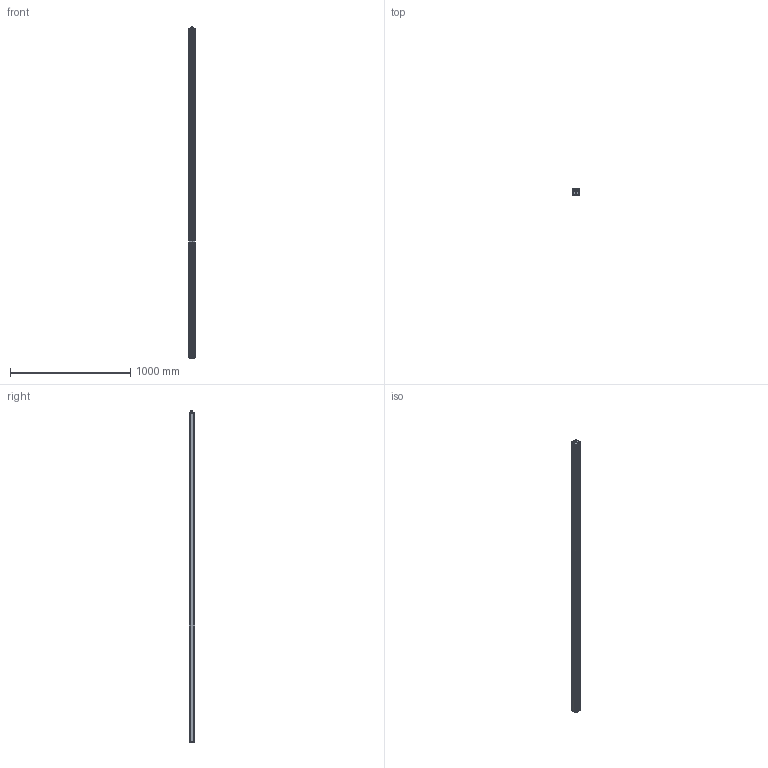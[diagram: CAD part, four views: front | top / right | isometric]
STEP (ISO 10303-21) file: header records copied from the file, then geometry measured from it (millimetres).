
FILE_DESCRIPTION (( 'STEP AP214' ), '1' );
FILE_NAME ('EFFI-FLEX2-LG-2700-ZZZ-WW-PP.STEP', '2021-05-28T09:33:51', ( '' ), ( '' ), 'SwSTEP 2.0', 'SolidWorks 2021', '' );
FILE_SCHEMA (( 'AUTOMOTIVE_DESIGN' ));
Length unit declared in the file: millimetre
Products named in the file (6): 018305; 018003; 017872; 018302; EFFI-FLEX2-LG-2700-ZZZ-WW-PP; 000104
Assembly tree (10 placements, depth 2):
  EFFI-FLEX2-LG-2700-ZZZ-WW-PP
    017872
    018302
    018305
    018003  x6
    000104
Bounding box: 51.01 x 49.11 x 2758 mm (x, y, z)
Volume: 5676766.7 mm3; surface area: 1059331.6 mm2
Topology: 10 solids, 10 shells, 1555 faces, 3970 edges, 2522 vertices
Faces by surface type: plane 798, cylinder 442, bspline 117, cone 96, torus 66, sphere 36
Entity records: 55996 total; most frequent: CARTESIAN_POINT 15057, ORIENTED_EDGE 6804, DIRECTION 6309, EDGE_CURVE 3402, VECTOR 2257, LINE 2257, VERTEX_POINT 2232, AXIS2_PLACEMENT_3D 2026
